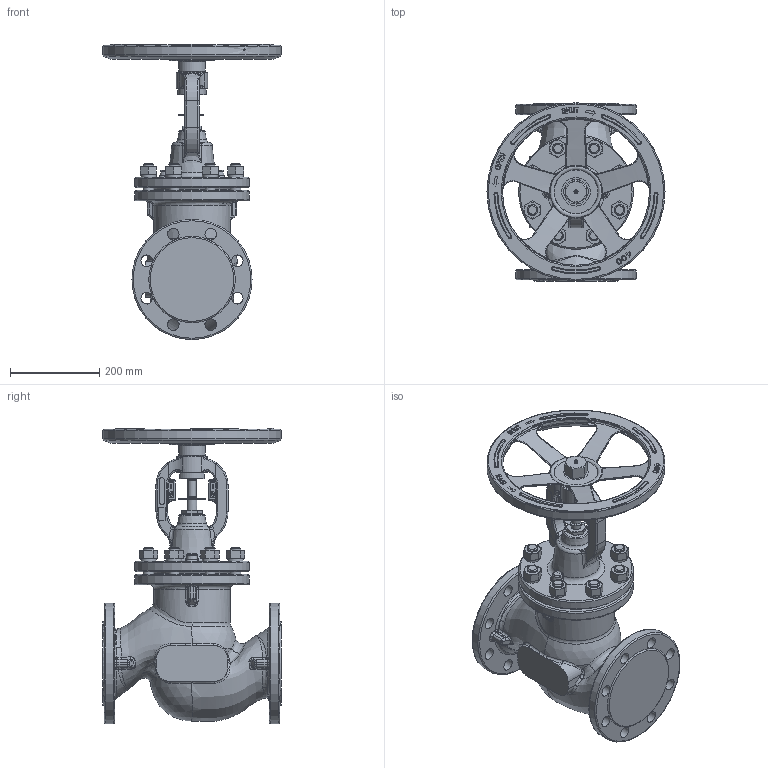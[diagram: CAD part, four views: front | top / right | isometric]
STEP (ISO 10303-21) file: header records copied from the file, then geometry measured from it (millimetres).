
FILE_DESCRIPTION(/* description */ (''),/* implementation_level */ '2;1');
FILE_NAME(/* name */ 'ZV226E_DN125_PN40.stp',/* time_stamp */ '2014-10-01T05:40:09+02:00',/* author */ (''),/* organization */ (''),/* preprocessor_version */ 'ST-DEVELOPER v15',/* originating_system */ 'SIEMENS PLM Software NX 8.5',/* authorisation */ '');
FILE_SCHEMA (('AP203_CONFIGURATION_CONTROLLED_3D_DESIGN_OF_MECHANICAL_PARTS_AND_ASSEMBLIES_MIM_LF { 1 0 10303 403 2 1 2}'));
Products named in the file (1): adam0D0CD2F3qxf8
Bounding box: 400 x 400 x 663.2 mm (x, y, z)
Volume: 18414626 mm3; surface area: 1099598 mm2
Topology: 1 solids, 2 shells, 1341 faces, 3284 edges, 1955 vertices
Faces by surface type: plane 421, cylinder 263, bspline 248, torus 182, cone 170, sphere 34, extrusion 23
Full cylindrical faces by diameter (mm): 4 x5, 7 x1, 10 x4, 18 x1, 19 x1, 22 x2, 24 x24, 26 x16, 33.7 x1, 50 x2, 55 x1, 55.2 x1, 60 x1, 62 x2, 70 x1, 164 x1, 172 x1, 180 x1, 258 x2, 270 x2, 330 x1, 335 x1, 395 x1, 400 x1
Entity records: 63201 total; most frequent: CARTESIAN_POINT 34905, ORIENTED_EDGE 6088, DIRECTION 5359, EDGE_CURVE 3044, AXIS2_PLACEMENT_3D 2267, VERTEX_POINT 1892, EDGE_LOOP 1610, ADVANCED_FACE 1341
